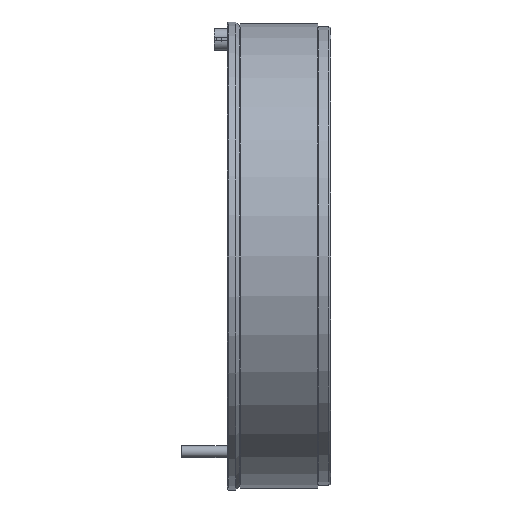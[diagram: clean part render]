
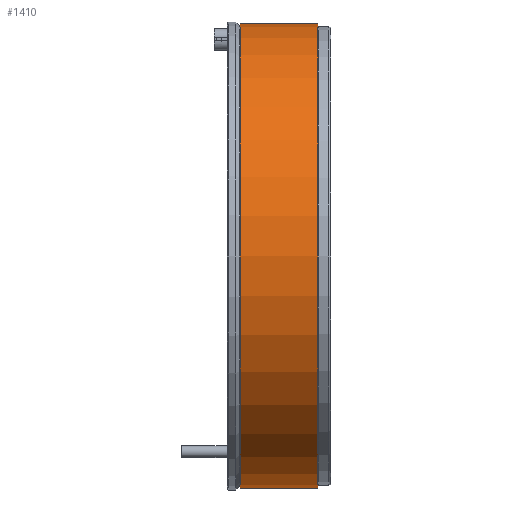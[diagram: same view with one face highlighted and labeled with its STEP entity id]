
A CAD part, left-side view. The second image highlights one B-rep face of the part: STEP entity #1410.
In plain terms, the highlighted cylindrical face has radius 247 mm (diameter 494 mm), a partial arc.
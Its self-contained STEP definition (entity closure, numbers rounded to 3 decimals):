
#146 = AXIS2_PLACEMENT_3D ( 'NONE', #2402, #7482, #3859 ) ;
#326 = VERTEX_POINT ( 'NONE', #8419 ) ;
#372 = LINE ( 'NONE', #2271, #1169 ) ;
#552 = LINE ( 'NONE', #6088, #6127 ) ;
#660 = AXIS2_PLACEMENT_3D ( 'NONE', #5353, #5542, #4704 ) ;
#816 = CARTESIAN_POINT ( 'NONE',  ( 0., 14., 247. ) ) ;
#826 = EDGE_CURVE ( 'NONE', #5441, #2997, #5792, .T. ) ;
#1169 = VECTOR ( 'NONE', #1844, 1000. ) ;
#1410 = ADVANCED_FACE ( 'NONE', ( #6235 ), #7017, .T. ) ;
#1844 = DIRECTION ( 'NONE',  ( 0., -1., 0. ) ) ;
#1986 = CARTESIAN_POINT ( 'NONE',  ( 0., 0., 0. ) ) ;
#2037 = AXIS2_PLACEMENT_3D ( 'NONE', #1986, #4179, #6333 ) ;
#2105 = ORIENTED_EDGE ( 'NONE', *, *, #826, .F. ) ;
#2271 = CARTESIAN_POINT ( 'NONE',  ( 0., 0., 247. ) ) ;
#2402 = CARTESIAN_POINT ( 'NONE',  ( 0., 14., 0. ) ) ;
#2596 = VERTEX_POINT ( 'NONE', #5523 ) ;
#2980 = CARTESIAN_POINT ( 'NONE',  ( 0., 14., -247. ) ) ;
#2997 = VERTEX_POINT ( 'NONE', #2980 ) ;
#3780 = EDGE_LOOP ( 'NONE', ( #8803, #5198, #9262, #2105 ) ) ;
#3859 = DIRECTION ( 'NONE',  ( 0., 0., -1. ) ) ;
#3869 = DIRECTION ( 'NONE',  ( 0., -1., 0. ) ) ;
#4179 = DIRECTION ( 'NONE',  ( 0., -1., 0. ) ) ;
#4704 = DIRECTION ( 'NONE',  ( 0., 0., -1. ) ) ;
#5198 = ORIENTED_EDGE ( 'NONE', *, *, #8198, .T. ) ;
#5353 = CARTESIAN_POINT ( 'NONE',  ( 0., 96., 0. ) ) ;
#5441 = VERTEX_POINT ( 'NONE', #816 ) ;
#5523 = CARTESIAN_POINT ( 'NONE',  ( 0., 96., -247. ) ) ;
#5542 = DIRECTION ( 'NONE',  ( 0., -1., 0. ) ) ;
#5792 = CIRCLE ( 'NONE', #146, 247. ) ;
#6088 = CARTESIAN_POINT ( 'NONE',  ( 0., 0., -247. ) ) ;
#6127 = VECTOR ( 'NONE', #3869, 1000. ) ;
#6235 = FACE_OUTER_BOUND ( 'NONE', #3780, .T. ) ;
#6333 = DIRECTION ( 'NONE',  ( 0., 0., -1. ) ) ;
#6768 = EDGE_CURVE ( 'NONE', #326, #5441, #372, .T. ) ;
#7017 = CYLINDRICAL_SURFACE ( 'NONE', #2037, 247. ) ;
#7482 = DIRECTION ( 'NONE',  ( 0., -1., 0. ) ) ;
#8198 = EDGE_CURVE ( 'NONE', #326, #2596, #8646, .T. ) ;
#8419 = CARTESIAN_POINT ( 'NONE',  ( 0., 96., 247. ) ) ;
#8646 = CIRCLE ( 'NONE', #660, 247. ) ;
#8803 = ORIENTED_EDGE ( 'NONE', *, *, #6768, .F. ) ;
#9046 = EDGE_CURVE ( 'NONE', #2596, #2997, #552, .T. ) ;
#9262 = ORIENTED_EDGE ( 'NONE', *, *, #9046, .T. ) ;
